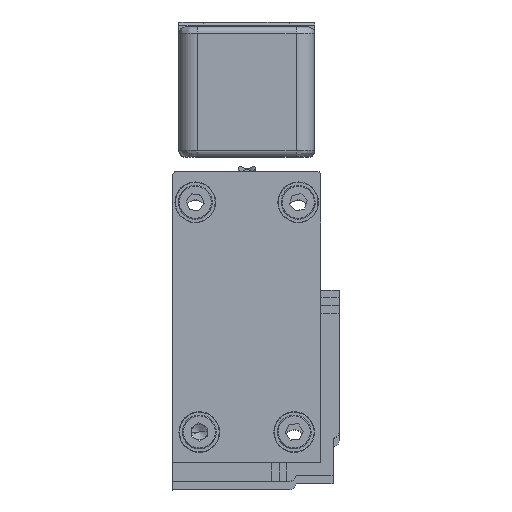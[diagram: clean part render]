
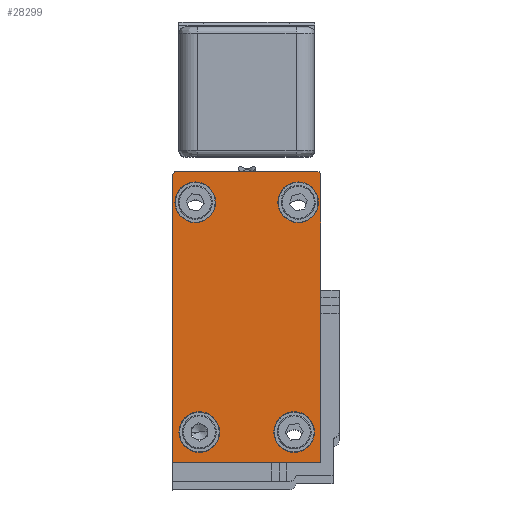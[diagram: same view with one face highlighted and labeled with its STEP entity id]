
A CAD part, top view. The second image highlights one B-rep face of the part: STEP entity #28299.
In plain terms, the highlighted planar face has unit normal (0, 0, 1).
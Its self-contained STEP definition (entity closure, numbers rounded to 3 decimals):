
#75 = DIRECTION ( 'NONE',  ( 0., 0., -1. ) ) ;
#351 = DIRECTION ( 'NONE',  ( 0., 1., 0. ) ) ;
#524 = CARTESIAN_POINT ( 'NONE',  ( 5.984, -20.888, 3185. ) ) ;
#629 = FACE_BOUND ( 'NONE', #22187, .T. ) ;
#692 = DIRECTION ( 'NONE',  ( 0., 1., 0. ) ) ;
#1246 = CARTESIAN_POINT ( 'NONE',  ( -0.967, 21.401, 3185. ) ) ;
#1378 = CARTESIAN_POINT ( 'NONE',  ( -13.714, -15.887, 3185. ) ) ;
#1992 = VERTEX_POINT ( 'NONE', #25302 ) ;
#2482 = CARTESIAN_POINT ( 'NONE',  ( 5.485, 26.371, 3185. ) ) ;
#3055 = CARTESIAN_POINT ( 'NONE',  ( 5.984, 7.11, 3185. ) ) ;
#3328 = CARTESIAN_POINT ( 'NONE',  ( -18.014, 25.871, 3185. ) ) ;
#3532 = CARTESIAN_POINT ( 'NONE',  ( -14.365, 21.401, 3185. ) ) ;
#3665 = VECTOR ( 'NONE', #26411, 1000. ) ;
#3861 = DIRECTION ( 'NONE',  ( -1., 0., 0. ) ) ;
#4297 = CIRCLE ( 'NONE', #30225, 0.5 ) ;
#4365 = CARTESIAN_POINT ( 'NONE',  ( -17.017, -15.887, 3185. ) ) ;
#4745 = ORIENTED_EDGE ( 'NONE', *, *, #16623, .T. ) ;
#4750 = DIRECTION ( 'NONE',  ( 0., 0., -1. ) ) ;
#4840 = CIRCLE ( 'NONE', #21952, 3.302 ) ;
#4982 = DIRECTION ( 'NONE',  ( -1., 0., 0. ) ) ;
#5489 = VERTEX_POINT ( 'NONE', #24052 ) ;
#5792 = EDGE_LOOP ( 'NONE', ( #28459, #16370, #6469, #23604, #10762, #9931, #13626 ) ) ;
#5975 = CARTESIAN_POINT ( 'NONE',  ( -13.714, -15.887, 3185. ) ) ;
#6024 = DIRECTION ( 'NONE',  ( -1., 0., 0. ) ) ;
#6336 = CARTESIAN_POINT ( 'NONE',  ( 5.637, 21.401, 3185. ) ) ;
#6469 = ORIENTED_EDGE ( 'NONE', *, *, #18912, .T. ) ;
#6686 = CARTESIAN_POINT ( 'NONE',  ( -17.514, 26.371, 3185. ) ) ;
#6847 = EDGE_CURVE ( 'NONE', #9895, #1992, #28771, .T. ) ;
#6957 = EDGE_CURVE ( 'NONE', #22480, #5489, #4840, .T. ) ;
#7217 = FACE_BOUND ( 'NONE', #23708, .T. ) ;
#7416 = CARTESIAN_POINT ( 'NONE',  ( 5.984, 25.871, 3185. ) ) ;
#7721 = CARTESIAN_POINT ( 'NONE',  ( -1.626, -15.887, 3185. ) ) ;
#7823 = CIRCLE ( 'NONE', #23431, 3.302 ) ;
#7996 = LINE ( 'NONE', #3055, #14573 ) ;
#8114 = ORIENTED_EDGE ( 'NONE', *, *, #18399, .T. ) ;
#8122 = CARTESIAN_POINT ( 'NONE',  ( -18.014, -20.888, 3185. ) ) ;
#8448 = DIRECTION ( 'NONE',  ( -1., 0., 0. ) ) ;
#8504 = AXIS2_PLACEMENT_3D ( 'NONE', #8122, #25087, #10605 ) ;
#8952 = EDGE_CURVE ( 'NONE', #21988, #20314, #7823, .T. ) ;
#9109 = CIRCLE ( 'NONE', #29007, 3.302 ) ;
#9198 = DIRECTION ( 'NONE',  ( 0., 0., 1. ) ) ;
#9865 = CARTESIAN_POINT ( 'NONE',  ( -18.014, -20.888, 3185. ) ) ;
#9895 = VERTEX_POINT ( 'NONE', #3328 ) ;
#9931 = ORIENTED_EDGE ( 'NONE', *, *, #6847, .T. ) ;
#9961 = CARTESIAN_POINT ( 'NONE',  ( 2.335, 21.401, 3185. ) ) ;
#10605 = DIRECTION ( 'NONE',  ( -1., 0., 0. ) ) ;
#10615 = AXIS2_PLACEMENT_3D ( 'NONE', #11621, #28474, #14089 ) ;
#10762 = ORIENTED_EDGE ( 'NONE', *, *, #19145, .F. ) ;
#10859 = AXIS2_PLACEMENT_3D ( 'NONE', #5975, #23015, #8448 ) ;
#10901 = EDGE_CURVE ( 'NONE', #31532, #15252, #7996, .T. ) ;
#11031 = CARTESIAN_POINT ( 'NONE',  ( 5.984, 7.11, 3185. ) ) ;
#11167 = EDGE_CURVE ( 'NONE', #23499, #30400, #29573, .T. ) ;
#11614 = EDGE_LOOP ( 'NONE', ( #19603, #8114 ) ) ;
#11621 = CARTESIAN_POINT ( 'NONE',  ( 1.676, -15.887, 3185. ) ) ;
#12464 = DIRECTION ( 'NONE',  ( -1., 0., 0. ) ) ;
#12967 = FACE_OUTER_BOUND ( 'NONE', #5792, .T. ) ;
#13083 = EDGE_LOOP ( 'NONE', ( #19520, #21002 ) ) ;
#13465 = VECTOR ( 'NONE', #26823, 1000. ) ;
#13606 = VERTEX_POINT ( 'NONE', #6686 ) ;
#13626 = ORIENTED_EDGE ( 'NONE', *, *, #21670, .T. ) ;
#14089 = DIRECTION ( 'NONE',  ( -1., 0., 0. ) ) ;
#14573 = VECTOR ( 'NONE', #18018, 1000. ) ;
#14641 = CARTESIAN_POINT ( 'NONE',  ( 2.335, 21.401, 3185. ) ) ;
#14839 = CARTESIAN_POINT ( 'NONE',  ( -14.365, 21.401, 3185. ) ) ;
#14856 = EDGE_CURVE ( 'NONE', #25185, #24448, #18651, .T. ) ;
#15114 = DIRECTION ( 'NONE',  ( 0., 0., -1. ) ) ;
#15252 = VERTEX_POINT ( 'NONE', #7416 ) ;
#15441 = PLANE ( 'NONE',  #8504 ) ;
#15899 = AXIS2_PLACEMENT_3D ( 'NONE', #19421, #4750, #21818 ) ;
#16033 = ORIENTED_EDGE ( 'NONE', *, *, #20896, .T. ) ;
#16370 = ORIENTED_EDGE ( 'NONE', *, *, #10901, .T. ) ;
#16623 = EDGE_CURVE ( 'NONE', #30400, #23499, #23694, .T. ) ;
#16699 = CIRCLE ( 'NONE', #19778, 3.302 ) ;
#17117 = DIRECTION ( 'NONE',  ( -1., 0., 0. ) ) ;
#17308 = DIRECTION ( 'NONE',  ( -1., 0., 0. ) ) ;
#17981 = AXIS2_PLACEMENT_3D ( 'NONE', #23771, #9198, #26178 ) ;
#17988 = EDGE_CURVE ( 'NONE', #5489, #22480, #9109, .T. ) ;
#18018 = DIRECTION ( 'NONE',  ( 0., 1., 0. ) ) ;
#18096 = LINE ( 'NONE', #29939, #30082 ) ;
#18399 = EDGE_CURVE ( 'NONE', #20314, #21988, #16699, .T. ) ;
#18569 = DIRECTION ( 'NONE',  ( 0., 0., -1. ) ) ;
#18651 = CIRCLE ( 'NONE', #19898, 3.302 ) ;
#18912 = EDGE_CURVE ( 'NONE', #15252, #21980, #27872, .T. ) ;
#19056 = CARTESIAN_POINT ( 'NONE',  ( -11.063, 21.401, 3185. ) ) ;
#19145 = EDGE_CURVE ( 'NONE', #9895, #13606, #4297, .T. ) ;
#19421 = CARTESIAN_POINT ( 'NONE',  ( 1.676, -15.887, 3185. ) ) ;
#19458 = FACE_BOUND ( 'NONE', #13083, .T. ) ;
#19520 = ORIENTED_EDGE ( 'NONE', *, *, #17988, .T. ) ;
#19603 = ORIENTED_EDGE ( 'NONE', *, *, #8952, .T. ) ;
#19778 = AXIS2_PLACEMENT_3D ( 'NONE', #14641, #31422, #17117 ) ;
#19898 = AXIS2_PLACEMENT_3D ( 'NONE', #1378, #18569, #3861 ) ;
#20314 = VERTEX_POINT ( 'NONE', #6336 ) ;
#20680 = DIRECTION ( 'NONE',  ( 0., 0., -1. ) ) ;
#20896 = EDGE_CURVE ( 'NONE', #24448, #25185, #28971, .T. ) ;
#21002 = ORIENTED_EDGE ( 'NONE', *, *, #6957, .T. ) ;
#21184 = VERTEX_POINT ( 'NONE', #524 ) ;
#21670 = EDGE_CURVE ( 'NONE', #1992, #21184, #26293, .T. ) ;
#21818 = DIRECTION ( 'NONE',  ( -1., 0., 0. ) ) ;
#21952 = AXIS2_PLACEMENT_3D ( 'NONE', #14839, #75, #17308 ) ;
#21980 = VERTEX_POINT ( 'NONE', #27958 ) ;
#21988 = VERTEX_POINT ( 'NONE', #1246 ) ;
#22187 = EDGE_LOOP ( 'NONE', ( #4745, #30644 ) ) ;
#22480 = VERTEX_POINT ( 'NONE', #19056 ) ;
#23015 = DIRECTION ( 'NONE',  ( 0., 0., -1. ) ) ;
#23280 = VECTOR ( 'NONE', #4982, 1000. ) ;
#23431 = AXIS2_PLACEMENT_3D ( 'NONE', #9961, #26912, #12464 ) ;
#23499 = VERTEX_POINT ( 'NONE', #27248 ) ;
#23604 = ORIENTED_EDGE ( 'NONE', *, *, #26740, .T. ) ;
#23694 = CIRCLE ( 'NONE', #15899, 3.302 ) ;
#23708 = EDGE_LOOP ( 'NONE', ( #25257, #16033 ) ) ;
#23771 = CARTESIAN_POINT ( 'NONE',  ( 5.485, 25.871, 3185. ) ) ;
#24047 = LINE ( 'NONE', #2482, #23280 ) ;
#24052 = CARTESIAN_POINT ( 'NONE',  ( -17.667, 21.401, 3185. ) ) ;
#24121 = CARTESIAN_POINT ( 'NONE',  ( -18.014, 25.871, 3185. ) ) ;
#24332 = CARTESIAN_POINT ( 'NONE',  ( -10.412, -15.887, 3185. ) ) ;
#24448 = VERTEX_POINT ( 'NONE', #24332 ) ;
#25087 = DIRECTION ( 'NONE',  ( 0., 0., 1. ) ) ;
#25185 = VERTEX_POINT ( 'NONE', #4365 ) ;
#25257 = ORIENTED_EDGE ( 'NONE', *, *, #14856, .T. ) ;
#25302 = CARTESIAN_POINT ( 'NONE',  ( -18.014, -20.888, 3185. ) ) ;
#25804 = FACE_BOUND ( 'NONE', #11614, .T. ) ;
#26178 = DIRECTION ( 'NONE',  ( 0., 1., 0. ) ) ;
#26292 = EDGE_CURVE ( 'NONE', #21184, #31532, #18096, .T. ) ;
#26293 = LINE ( 'NONE', #9865, #13465 ) ;
#26411 = DIRECTION ( 'NONE',  ( 0., -1., 0. ) ) ;
#26740 = EDGE_CURVE ( 'NONE', #21980, #13606, #24047, .T. ) ;
#26823 = DIRECTION ( 'NONE',  ( 1., 0., 0. ) ) ;
#26912 = DIRECTION ( 'NONE',  ( 0., 0., -1. ) ) ;
#27248 = CARTESIAN_POINT ( 'NONE',  ( 4.978, -15.887, 3185. ) ) ;
#27872 = CIRCLE ( 'NONE', #17981, 0.5 ) ;
#27958 = CARTESIAN_POINT ( 'NONE',  ( 5.485, 26.371, 3185. ) ) ;
#28299 = ADVANCED_FACE ( 'NONE', ( #19458, #25804, #629, #7217, #12967 ), #15441, .T. ) ;
#28459 = ORIENTED_EDGE ( 'NONE', *, *, #26292, .T. ) ;
#28474 = DIRECTION ( 'NONE',  ( 0., 0., -1. ) ) ;
#28771 = LINE ( 'NONE', #24121, #3665 ) ;
#28971 = CIRCLE ( 'NONE', #10859, 3.302 ) ;
#29007 = AXIS2_PLACEMENT_3D ( 'NONE', #3532, #20680, #6024 ) ;
#29502 = CARTESIAN_POINT ( 'NONE',  ( -17.514, 25.871, 3185. ) ) ;
#29573 = CIRCLE ( 'NONE', #10615, 3.302 ) ;
#29939 = CARTESIAN_POINT ( 'NONE',  ( 5.984, -20.888, 3185. ) ) ;
#30082 = VECTOR ( 'NONE', #692, 1000. ) ;
#30225 = AXIS2_PLACEMENT_3D ( 'NONE', #29502, #15114, #351 ) ;
#30400 = VERTEX_POINT ( 'NONE', #7721 ) ;
#30644 = ORIENTED_EDGE ( 'NONE', *, *, #11167, .T. ) ;
#31422 = DIRECTION ( 'NONE',  ( 0., 0., -1. ) ) ;
#31532 = VERTEX_POINT ( 'NONE', #11031 ) ;
